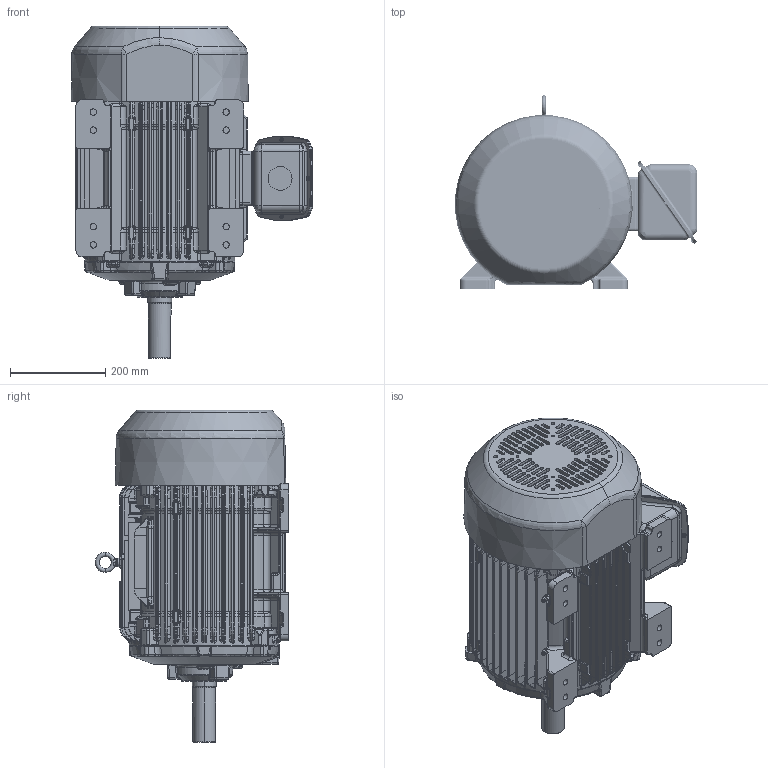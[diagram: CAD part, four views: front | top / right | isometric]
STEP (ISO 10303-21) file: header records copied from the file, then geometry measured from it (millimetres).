
FILE_DESCRIPTION((''),'2;1');
FILE_NAME('280_3D_ASM_ASM','2017-05-03T',('emd2341'),('Nidec Motor Corporation'),'CREO PARAMETRIC BY PTC INC, 2016130','CREO PARAMETRIC BY PTC INC, 2016130','');
FILE_SCHEMA(('CONFIG_CONTROL_DESIGN'));
Length unit declared in the file: inch
Products named in the file (10): 280_FOOTED_FRAME; 280_DE_BRKT; 280_T_SHA; 0133167; 280_STL_FCVR; STL_GSK_OBB; 280_STL_OBB; STL_GSK_OBC; 280_STL_OBC; 280_3D_ASM_ASM
Assembly tree (9 placements, depth 2):
  280_3D_ASM_ASM
    280_FOOTED_FRAME
    280_DE_BRKT
    280_T_SHA
    0133167
    280_STL_FCVR
    STL_GSK_OBB
    280_STL_OBB
    STL_GSK_OBC
    280_STL_OBC
Bounding box: 508.98 x 406.91 x 698.37 mm (x, y, z)
Volume: 52545120.1 mm3; surface area: 1981313 mm2
Topology: 9 solids, 9 shells, 5208 faces, 11817 edges, 6709 vertices
Faces by surface type: bspline 2259, cylinder 1291, plane 932, torus 313, extrusion 222, sphere 152, cone 39
Entity records: 234469 total; most frequent: CARTESIAN_POINT 132980, ORIENTED_EDGE 23634, DIRECTION 17258, EDGE_CURVE 11817, VERTEX_POINT 6709, AXIS2_PLACEMENT_3D 6680, EDGE_LOOP 5334, FACE_OUTER_BOUND 5208
